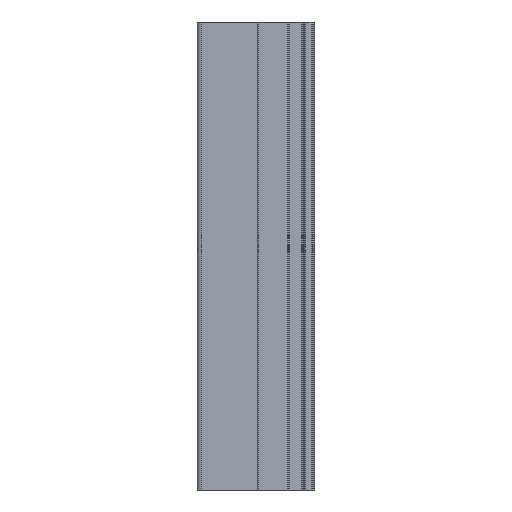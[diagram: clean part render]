
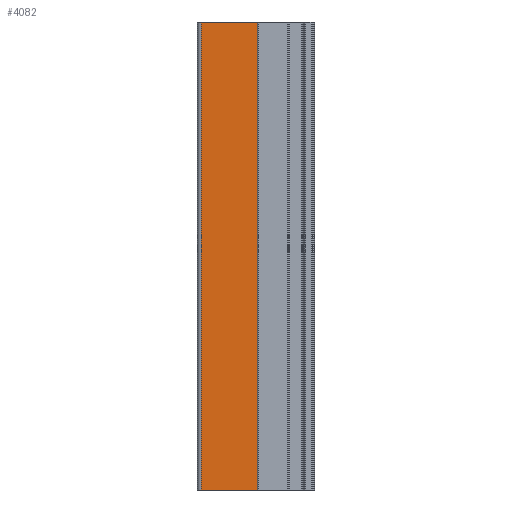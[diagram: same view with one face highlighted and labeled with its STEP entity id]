
A CAD part, front view. The second image highlights one B-rep face of the part: STEP entity #4082.
In plain terms, the highlighted planar face has unit normal (0, -1, 0).
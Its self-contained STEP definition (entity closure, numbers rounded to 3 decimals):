
#722 = CARTESIAN_POINT ( 'NONE',  ( -10.25, 8.25, 0. ) ) ;
#809 = LINE ( 'NONE', #810, #811 ) ;
#810 = CARTESIAN_POINT ( 'NONE',  ( 5.5, 8.25, 0. ) ) ;
#811 = VECTOR ( 'NONE', #812, 1000. ) ;
#812 = DIRECTION ( 'NONE',  ( -1., 0., 0. ) ) ;
#1479 = FACE_OUTER_BOUND ( 'NONE', #4065, .T. ) ;
#1480 = PLANE ( 'NONE',  #1481 ) ;
#1481 = AXIS2_PLACEMENT_3D ( 'NONE', #1482, #1483, #1484 ) ;
#1482 = CARTESIAN_POINT ( 'NONE',  ( 5.5, 8.25, 94. ) ) ;
#1483 = DIRECTION ( 'NONE',  ( 0., 1., 0. ) ) ;
#1484 = DIRECTION ( 'NONE',  ( 0., 0., 1. ) ) ;
#1575 = VERTEX_POINT ( 'NONE', #3191 ) ;
#1688 = LINE ( 'NONE', #1689, #1690 ) ;
#1689 = CARTESIAN_POINT ( 'NONE',  ( 5.5, 8.25, 94. ) ) ;
#1690 = VECTOR ( 'NONE', #1691, 1000. ) ;
#1691 = DIRECTION ( 'NONE',  ( 0., 0., -1. ) ) ;
#1904 = LINE ( 'NONE', #1905, #1906 ) ;
#1905 = CARTESIAN_POINT ( 'NONE',  ( -10.25, 8.25, 94. ) ) ;
#1906 = VECTOR ( 'NONE', #1907, 1000. ) ;
#1907 = DIRECTION ( 'NONE',  ( 0., 0., -1. ) ) ;
#2291 = CARTESIAN_POINT ( 'NONE',  ( 5.5, 8.25, 94. ) ) ;
#2490 = CARTESIAN_POINT ( 'NONE',  ( -10.25, 8.25, 94. ) ) ;
#2644 = LINE ( 'NONE', #2645, #2646 ) ;
#2645 = CARTESIAN_POINT ( 'NONE',  ( 5.5, 8.25, 94. ) ) ;
#2646 = VECTOR ( 'NONE', #2647, 1000. ) ;
#2647 = DIRECTION ( 'NONE',  ( -1., 0., 0. ) ) ;
#3191 = CARTESIAN_POINT ( 'NONE',  ( 5.5, 8.25, 0. ) ) ;
#3594 = EDGE_CURVE ( 'NONE', #3762, #3954, #1904, .T. ) ;
#3668 = ORIENTED_EDGE ( 'NONE', *, *, #3594, .T. ) ;
#3762 = VERTEX_POINT ( 'NONE', #2490 ) ;
#3805 = EDGE_CURVE ( 'NONE', #4197, #3762, #2644, .T. ) ;
#3861 = ORIENTED_EDGE ( 'NONE', *, *, #3805, .T. ) ;
#3913 = ORIENTED_EDGE ( 'NONE', *, *, #4120, .F. ) ;
#3954 = VERTEX_POINT ( 'NONE', #722 ) ;
#3976 = EDGE_CURVE ( 'NONE', #1575, #3954, #809, .T. ) ;
#4015 = ORIENTED_EDGE ( 'NONE', *, *, #3976, .F. ) ;
#4065 = EDGE_LOOP ( 'NONE', ( #4015, #3913, #3861, #3668 ) ) ;
#4082 = ADVANCED_FACE ( 'NONE', ( #1479 ), #1480, .F. ) ;
#4120 = EDGE_CURVE ( 'NONE', #4197, #1575, #1688, .T. ) ;
#4197 = VERTEX_POINT ( 'NONE', #2291 ) ;
